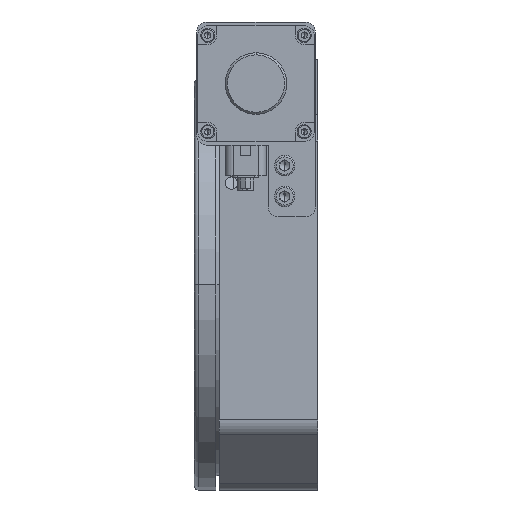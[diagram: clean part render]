
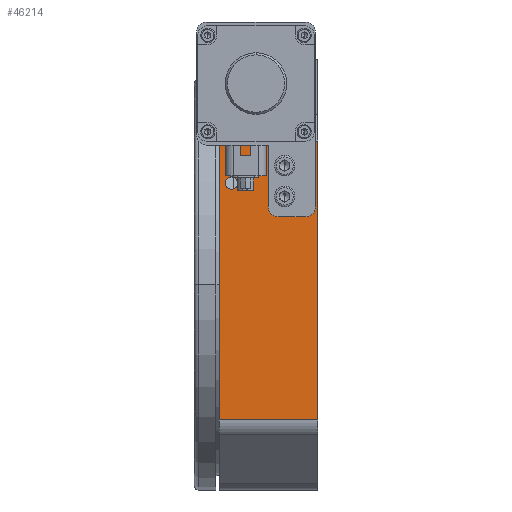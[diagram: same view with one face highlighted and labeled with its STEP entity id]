
A CAD part, left-side view. The second image highlights one B-rep face of the part: STEP entity #46214.
In plain terms, the highlighted planar face has unit normal (-1, 0, 0).
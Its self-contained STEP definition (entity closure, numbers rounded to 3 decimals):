
#448 = EDGE_LOOP ( 'NONE', ( #43012, #12933, #46375, #4897 ) ) ;
#805 = LINE ( 'NONE', #26465, #2086 ) ;
#1746 = DIRECTION ( 'NONE',  ( 0., 0., 1. ) ) ;
#2086 = VECTOR ( 'NONE', #1746, 1000. ) ;
#2429 = EDGE_LOOP ( 'NONE', ( #35088, #15491 ) ) ;
#2484 = AXIS2_PLACEMENT_3D ( 'NONE', #41378, #20236, #45553 ) ;
#2537 = CARTESIAN_POINT ( 'NONE',  ( -100., 48., -100. ) ) ;
#2832 = VERTEX_POINT ( 'NONE', #37765 ) ;
#2922 = CARTESIAN_POINT ( 'NONE',  ( -100., 16., 55.6 ) ) ;
#3016 = VERTEX_POINT ( 'NONE', #7392 ) ;
#3142 = VERTEX_POINT ( 'NONE', #14994 ) ;
#3887 = CIRCLE ( 'NONE', #22568, 2.5 ) ;
#4009 = CIRCLE ( 'NONE', #30492, 3. ) ;
#4862 = DIRECTION ( 'NONE',  ( 0., 0., 1. ) ) ;
#4897 = ORIENTED_EDGE ( 'NONE', *, *, #8683, .T. ) ;
#5871 = AXIS2_PLACEMENT_3D ( 'NONE', #26807, #22294, #38745 ) ;
#6672 = DIRECTION ( 'NONE',  ( 0., 0., 1. ) ) ;
#7392 = CARTESIAN_POINT ( 'NONE',  ( -100., 0., -65.858 ) ) ;
#7462 = LINE ( 'NONE', #45027, #48860 ) ;
#8599 = DIRECTION ( 'NONE',  ( 0., 0., 1. ) ) ;
#8683 = EDGE_CURVE ( 'NONE', #38535, #15479, #43415, .T. ) ;
#9164 = EDGE_CURVE ( 'NONE', #2832, #15859, #36201, .T. ) ;
#9528 = EDGE_LOOP ( 'NONE', ( #33222, #32908 ) ) ;
#9691 = EDGE_CURVE ( 'NONE', #37049, #52263, #3887, .T. ) ;
#10141 = EDGE_LOOP ( 'NONE', ( #28370, #11244 ) ) ;
#11244 = ORIENTED_EDGE ( 'NONE', *, *, #26451, .F. ) ;
#12927 = CARTESIAN_POINT ( 'NONE',  ( -100., 48., -65.858 ) ) ;
#12933 = ORIENTED_EDGE ( 'NONE', *, *, #13559, .T. ) ;
#13181 = CARTESIAN_POINT ( 'NONE',  ( -100., 0., -100. ) ) ;
#13559 = EDGE_CURVE ( 'NONE', #38653, #3016, #7462, .T. ) ;
#13905 = VERTEX_POINT ( 'NONE', #25806 ) ;
#14772 = CARTESIAN_POINT ( 'NONE',  ( -100., 16., 58.1 ) ) ;
#14940 = DIRECTION ( 'NONE',  ( -1., 0., 0. ) ) ;
#14994 = CARTESIAN_POINT ( 'NONE',  ( -100., 16., 45.6 ) ) ;
#15479 = VERTEX_POINT ( 'NONE', #17835 ) ;
#15491 = ORIENTED_EDGE ( 'NONE', *, *, #37117, .F. ) ;
#15859 = VERTEX_POINT ( 'NONE', #16010 ) ;
#15923 = CARTESIAN_POINT ( 'NONE',  ( -100., 48., 70.1 ) ) ;
#16010 = CARTESIAN_POINT ( 'NONE',  ( -100., 42., 46.6 ) ) ;
#16381 = VECTOR ( 'NONE', #4862, 1000. ) ;
#17835 = CARTESIAN_POINT ( 'NONE',  ( -100., 48., 70.1 ) ) ;
#20053 = DIRECTION ( 'NONE',  ( 0., -1., 0. ) ) ;
#20236 = DIRECTION ( 'NONE',  ( -1., 0., 0. ) ) ;
#20273 = LINE ( 'NONE', #13181, #16381 ) ;
#22294 = DIRECTION ( 'NONE',  ( -1., 0., 0. ) ) ;
#22568 = AXIS2_PLACEMENT_3D ( 'NONE', #14772, #14940, #43538 ) ;
#23128 = DIRECTION ( 'NONE',  ( 1., 0., 0. ) ) ;
#23481 = DIRECTION ( 'NONE',  ( -1., 0., 0. ) ) ;
#23660 = CIRCLE ( 'NONE', #40854, 2.5 ) ;
#24437 = DIRECTION ( 'NONE',  ( 0., 1., 0. ) ) ;
#25287 = VECTOR ( 'NONE', #24437, 1000. ) ;
#25621 = EDGE_CURVE ( 'NONE', #3142, #13905, #44455, .T. ) ;
#25806 = CARTESIAN_POINT ( 'NONE',  ( -100., 16., 40.6 ) ) ;
#26451 = EDGE_CURVE ( 'NONE', #13905, #3142, #23660, .T. ) ;
#26465 = CARTESIAN_POINT ( 'NONE',  ( -100., 48., -100. ) ) ;
#26807 = CARTESIAN_POINT ( 'NONE',  ( -100., 16., 43.1 ) ) ;
#27094 = PLANE ( 'NONE',  #34219 ) ;
#27302 = FACE_OUTER_BOUND ( 'NONE', #448, .T. ) ;
#28370 = ORIENTED_EDGE ( 'NONE', *, *, #25621, .F. ) ;
#28600 = FACE_BOUND ( 'NONE', #2429, .T. ) ;
#29163 = CARTESIAN_POINT ( 'NONE',  ( -100., 42., 49.6 ) ) ;
#29340 = DIRECTION ( 'NONE',  ( 0., 0., 1. ) ) ;
#29767 = CIRCLE ( 'NONE', #34528, 2.5 ) ;
#30492 = AXIS2_PLACEMENT_3D ( 'NONE', #29163, #45662, #29340 ) ;
#30660 = EDGE_CURVE ( 'NONE', #15859, #2832, #4009, .T. ) ;
#31420 = DIRECTION ( 'NONE',  ( 0., 0., -1. ) ) ;
#31785 = CARTESIAN_POINT ( 'NONE',  ( -100., 16., 58.1 ) ) ;
#32908 = ORIENTED_EDGE ( 'NONE', *, *, #30660, .F. ) ;
#33222 = ORIENTED_EDGE ( 'NONE', *, *, #9164, .F. ) ;
#34219 = AXIS2_PLACEMENT_3D ( 'NONE', #2537, #23128, #31420 ) ;
#34528 = AXIS2_PLACEMENT_3D ( 'NONE', #31785, #23481, #6672 ) ;
#35088 = ORIENTED_EDGE ( 'NONE', *, *, #9691, .F. ) ;
#36201 = CIRCLE ( 'NONE', #2484, 3. ) ;
#36419 = CARTESIAN_POINT ( 'NONE',  ( -100., 0., 70.1 ) ) ;
#36778 = CARTESIAN_POINT ( 'NONE',  ( -100., 16., 43.1 ) ) ;
#37049 = VERTEX_POINT ( 'NONE', #38858 ) ;
#37117 = EDGE_CURVE ( 'NONE', #52263, #37049, #29767, .T. ) ;
#37765 = CARTESIAN_POINT ( 'NONE',  ( -100., 42., 52.6 ) ) ;
#38535 = VERTEX_POINT ( 'NONE', #36419 ) ;
#38653 = VERTEX_POINT ( 'NONE', #12927 ) ;
#38745 = DIRECTION ( 'NONE',  ( 0., 0., 1. ) ) ;
#38858 = CARTESIAN_POINT ( 'NONE',  ( -100., 16., 60.6 ) ) ;
#39602 = FACE_BOUND ( 'NONE', #10141, .T. ) ;
#40854 = AXIS2_PLACEMENT_3D ( 'NONE', #36778, #41851, #8599 ) ;
#41378 = CARTESIAN_POINT ( 'NONE',  ( -100., 42., 49.6 ) ) ;
#41851 = DIRECTION ( 'NONE',  ( -1., 0., 0. ) ) ;
#43012 = ORIENTED_EDGE ( 'NONE', *, *, #46445, .F. ) ;
#43415 = LINE ( 'NONE', #15923, #25287 ) ;
#43538 = DIRECTION ( 'NONE',  ( 0., 0., 1. ) ) ;
#44455 = CIRCLE ( 'NONE', #5871, 2.5 ) ;
#45027 = CARTESIAN_POINT ( 'NONE',  ( -100., 0., -65.858 ) ) ;
#45553 = DIRECTION ( 'NONE',  ( 0., 0., 1. ) ) ;
#45662 = DIRECTION ( 'NONE',  ( -1., 0., 0. ) ) ;
#46214 = ADVANCED_FACE ( 'NONE', ( #49327, #39602, #28600, #27302 ), #27094, .F. ) ;
#46375 = ORIENTED_EDGE ( 'NONE', *, *, #50042, .T. ) ;
#46445 = EDGE_CURVE ( 'NONE', #38653, #15479, #805, .T. ) ;
#48860 = VECTOR ( 'NONE', #20053, 1000. ) ;
#49327 = FACE_BOUND ( 'NONE', #9528, .T. ) ;
#50042 = EDGE_CURVE ( 'NONE', #3016, #38535, #20273, .T. ) ;
#52263 = VERTEX_POINT ( 'NONE', #2922 ) ;
